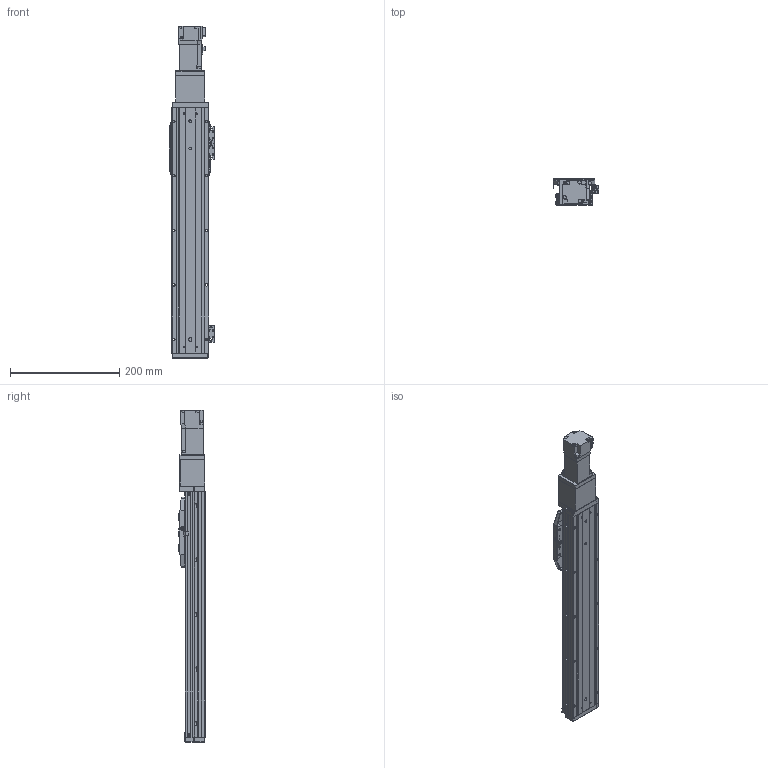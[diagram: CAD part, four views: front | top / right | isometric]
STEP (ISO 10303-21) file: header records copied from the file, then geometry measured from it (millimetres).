
FILE_DESCRIPTION (( 'STEP AP214' ), '1' );
FILE_NAME ('CTHA60-300-BC-M10-C4L.step', '2022-03-19T06:09:53', ( '微软用户' ), ( '微软中国' ), 'SwSTEP 2.0', 'SolidWorks 2020', '' );
FILE_SCHEMA (( 'AUTOMOTIVE_DESIGN' ));
Length unit declared in the file: millimetre
Products named in the file (19): GBT 70.1-M4×16; GBT 70.3-M3℅6; CTHA60-013; CTHA60-005; CTHA60-002; CTHA60-017; GBT77-2000 M3×3; CTHA60-016; CTHA60-001_450; CTHA60-006; GB¨uT 70.2-M3¡Á6_M3¡Á6; CTHA60-031; CTHA60-021; GBT 70.1-M3℅6; CTHA60-027; CTHA60-004; HG-KR13（三菱）; EE_SX911P_R; CTHA60-300-BC-M10-C4L
Assembly tree (57 placements, depth 2):
  CTHA60-300-BC-M10-C4L
    CTHA60-001_450
    CTHA60-004
    CTHA60-005
    GB¨uT 70.2-M3¡Á6_M3¡Á6  x10
    EE_SX911P_R  x3
    CTHA60-017  x3
    CTHA60-021  x2
    GBT 70.1-M4×16  x10
    GBT77-2000 M3×3  x6
    GBT 70.1-M3℅6  x6
    GBT 70.3-M3℅6  x6
    CTHA60-016  x2
    CTHA60-027
    CTHA60-013
    CTHA60-006
    HG-KR13（三菱）
    CTHA60-002
    CTHA60-031
Bounding box: 83.12 x 48 x 608.6 mm (x, y, z)
Volume: 1036864.7 mm3; surface area: 292804.8 mm2
Topology: 59 solids, 59 shells, 2415 faces, 5741 edges, 3515 vertices
Faces by surface type: plane 1402, cylinder 537, cone 356, torus 96, sphere 24
Entity records: 37818 total; most frequent: CARTESIAN_POINT 6368, DIRECTION 6272, ORIENTED_EDGE 6062, EDGE_CURVE 3031, LINE 2232, VECTOR 2232, AXIS2_PLACEMENT_3D 2020, VERTEX_POINT 1912
